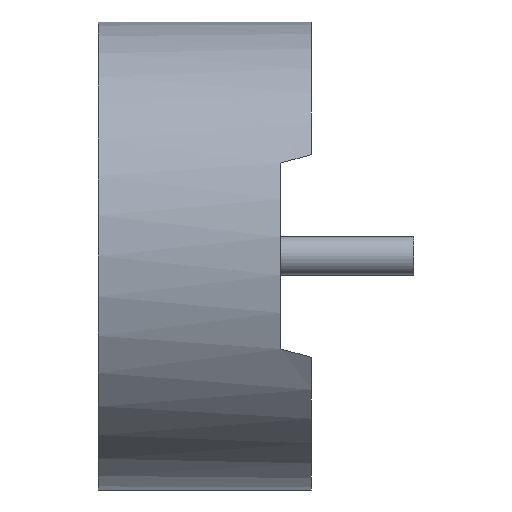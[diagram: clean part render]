
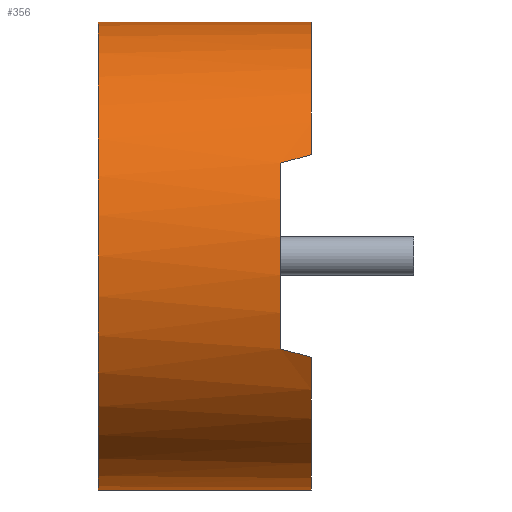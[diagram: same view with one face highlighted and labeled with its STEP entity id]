
A CAD part, left-side view. The second image highlights one B-rep face of the part: STEP entity #356.
In plain terms, the highlighted cylindrical face has radius 9.588 mm (diameter 19.177 mm), a partial arc.
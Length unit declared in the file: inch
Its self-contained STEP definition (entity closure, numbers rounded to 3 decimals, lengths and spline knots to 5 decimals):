
#8 = CARTESIAN_POINT ( 'NONE',  ( 0., 0., 0. ) ) ;
#55 = VECTOR ( 'NONE', #794, 39.37008 ) ;
#79 = VERTEX_POINT ( 'NONE', #1275 ) ;
#123 = EDGE_CURVE ( 'NONE', #506, #79, #988, .T. ) ;
#132 = CARTESIAN_POINT ( 'NONE',  ( -0.34243, 0.01652, 0.15897 ) ) ;
#144 = CARTESIAN_POINT ( 'NONE',  ( -0.34642, 0.05, 0.15 ) ) ;
#152 = EDGE_CURVE ( 'NONE', #840, #771, #921, .T. ) ;
#159 = VERTEX_POINT ( 'NONE', #301 ) ;
#175 = CARTESIAN_POINT ( 'NONE',  ( -0.3403, 0., 0.1634 ) ) ;
#198 = AXIS2_PLACEMENT_3D ( 'NONE', #288, #730, #525 ) ;
#199 = LINE ( 'NONE', #887, #55 ) ;
#211 = CIRCLE ( 'NONE', #418, 0.3775 ) ;
#219 = EDGE_CURVE ( 'NONE', #284, #263, #734, .T. ) ;
#223 = EDGE_CURVE ( 'NONE', #771, #159, #558, .T. ) ;
#226 = DIRECTION ( 'NONE',  ( 0., 0., -1. ) ) ;
#235 = CARTESIAN_POINT ( 'NONE',  ( -0.3403, 0., 0.1634 ) ) ;
#263 = VERTEX_POINT ( 'NONE', #1156 ) ;
#278 = ORIENTED_EDGE ( 'NONE', *, *, #744, .F. ) ;
#284 = VERTEX_POINT ( 'NONE', #1165 ) ;
#285 = AXIS2_PLACEMENT_3D ( 'NONE', #573, #633, #226 ) ;
#288 = CARTESIAN_POINT ( 'NONE',  ( 0., 0., 0. ) ) ;
#292 = CARTESIAN_POINT ( 'NONE',  ( -0.34642, 0.05, -0.15 ) ) ;
#301 = CARTESIAN_POINT ( 'NONE',  ( 0., 0., 0.3775 ) ) ;
#356 = ADVANCED_FACE ( 'NONE', ( #395 ), #1111, .T. ) ;
#379 = CARTESIAN_POINT ( 'NONE',  ( 0., 0.344, 0. ) ) ;
#395 = FACE_OUTER_BOUND ( 'NONE', #1058, .T. ) ;
#418 = AXIS2_PLACEMENT_3D ( 'NONE', #1231, #1226, #1225 ) ;
#453 = ORIENTED_EDGE ( 'NONE', *, *, #152, .T. ) ;
#456 = EDGE_CURVE ( 'NONE', #79, #840, #211, .T. ) ;
#460 = ORIENTED_EDGE ( 'NONE', *, *, #223, .T. ) ;
#478 = DIRECTION ( 'NONE',  ( 0., 0., 1. ) ) ;
#487 = ORIENTED_EDGE ( 'NONE', *, *, #1195, .T. ) ;
#506 = VERTEX_POINT ( 'NONE', #1224 ) ;
#525 = DIRECTION ( 'NONE',  ( 0., 0., 1. ) ) ;
#529 = CARTESIAN_POINT ( 'NONE',  ( 0., 0., -0.3775 ) ) ;
#541 = ORIENTED_EDGE ( 'NONE', *, *, #456, .T. ) ;
#558 = CIRCLE ( 'NONE', #922, 0.3775 ) ;
#560 = CARTESIAN_POINT ( 'NONE',  ( -0.3403, 0., -0.1634 ) ) ;
#573 = CARTESIAN_POINT ( 'NONE',  ( 0., 0.344, 0. ) ) ;
#616 = DIRECTION ( 'NONE',  ( 0., 1., 0. ) ) ;
#626 = ORIENTED_EDGE ( 'NONE', *, *, #219, .F. ) ;
#633 = DIRECTION ( 'NONE',  ( 0., -1., 0. ) ) ;
#644 = ORIENTED_EDGE ( 'NONE', *, *, #1259, .T. ) ;
#672 = CARTESIAN_POINT ( 'NONE',  ( -0.34642, 0.05, 0.15 ) ) ;
#730 = DIRECTION ( 'NONE',  ( 0., 1., 0. ) ) ;
#734 = CIRCLE ( 'NONE', #980, 0.3775 ) ;
#744 = EDGE_CURVE ( 'NONE', #263, #159, #199, .T. ) ;
#757 = CARTESIAN_POINT ( 'NONE',  ( -0.34243, 0.01652, -0.15897 ) ) ;
#771 = VERTEX_POINT ( 'NONE', #175 ) ;
#780 = CARTESIAN_POINT ( 'NONE',  ( -0.34447, 0.03319, -0.15451 ) ) ;
#786 = VERTEX_POINT ( 'NONE', #529 ) ;
#788 = VECTOR ( 'NONE', #879, 39.37008 ) ;
#794 = DIRECTION ( 'NONE',  ( 0., -1., 0. ) ) ;
#840 = VERTEX_POINT ( 'NONE', #672 ) ;
#879 = DIRECTION ( 'NONE',  ( 0., -1., 0. ) ) ;
#887 = CARTESIAN_POINT ( 'NONE',  ( 0., 0.344, 0.3775 ) ) ;
#913 = LINE ( 'NONE', #1084, #788 ) ;
#921 =( BOUNDED_CURVE ( )  B_SPLINE_CURVE ( 3, ( #144, #1138, #132, #235 ),
 .UNSPECIFIED., .F., .T. ) 
 B_SPLINE_CURVE_WITH_KNOTS ( ( 4, 4 ),
 ( 5.12102, 5.16004 ),
 .UNSPECIFIED. ) 
 CURVE ( )  GEOMETRIC_REPRESENTATION_ITEM ( )  RATIONAL_B_SPLINE_CURVE ( ( 1., 1., 1., 1. ) ) 
 REPRESENTATION_ITEM ( '' )  );
#922 = AXIS2_PLACEMENT_3D ( 'NONE', #8, #616, #478 ) ;
#963 = DIRECTION ( 'NONE',  ( 0., 1., 0. ) ) ;
#971 = ORIENTED_EDGE ( 'NONE', *, *, #123, .T. ) ;
#972 = DIRECTION ( 'NONE',  ( 0., 0., 1. ) ) ;
#980 = AXIS2_PLACEMENT_3D ( 'NONE', #379, #963, #972 ) ;
#981 = CIRCLE ( 'NONE', #198, 0.3775 ) ;
#988 =( BOUNDED_CURVE ( )  B_SPLINE_CURVE ( 3, ( #560, #757, #780, #292 ),
 .UNSPECIFIED., .F., .T. ) 
 B_SPLINE_CURVE_WITH_KNOTS ( ( 4, 4 ),
 ( 1.12315, 1.16217 ),
 .UNSPECIFIED. ) 
 CURVE ( )  GEOMETRIC_REPRESENTATION_ITEM ( )  RATIONAL_B_SPLINE_CURVE ( ( 1., 1., 1., 1. ) ) 
 REPRESENTATION_ITEM ( '' )  );
#1058 = EDGE_LOOP ( 'NONE', ( #278, #626, #487, #644, #971, #541, #453, #460 ) ) ;
#1084 = CARTESIAN_POINT ( 'NONE',  ( 0., 0.344, -0.3775 ) ) ;
#1111 = CYLINDRICAL_SURFACE ( 'NONE', #285, 0.3775 ) ;
#1138 = CARTESIAN_POINT ( 'NONE',  ( -0.34447, 0.03319, 0.15451 ) ) ;
#1156 = CARTESIAN_POINT ( 'NONE',  ( 0., 0.344, 0.3775 ) ) ;
#1165 = CARTESIAN_POINT ( 'NONE',  ( 0., 0.344, -0.3775 ) ) ;
#1195 = EDGE_CURVE ( 'NONE', #284, #786, #913, .T. ) ;
#1224 = CARTESIAN_POINT ( 'NONE',  ( -0.3403, 0., -0.1634 ) ) ;
#1225 = DIRECTION ( 'NONE',  ( 0., 0., 1. ) ) ;
#1226 = DIRECTION ( 'NONE',  ( 0., 1., 0. ) ) ;
#1231 = CARTESIAN_POINT ( 'NONE',  ( 0., 0.05, 0. ) ) ;
#1259 = EDGE_CURVE ( 'NONE', #786, #506, #981, .T. ) ;
#1275 = CARTESIAN_POINT ( 'NONE',  ( -0.34642, 0.05, -0.15 ) ) ;
